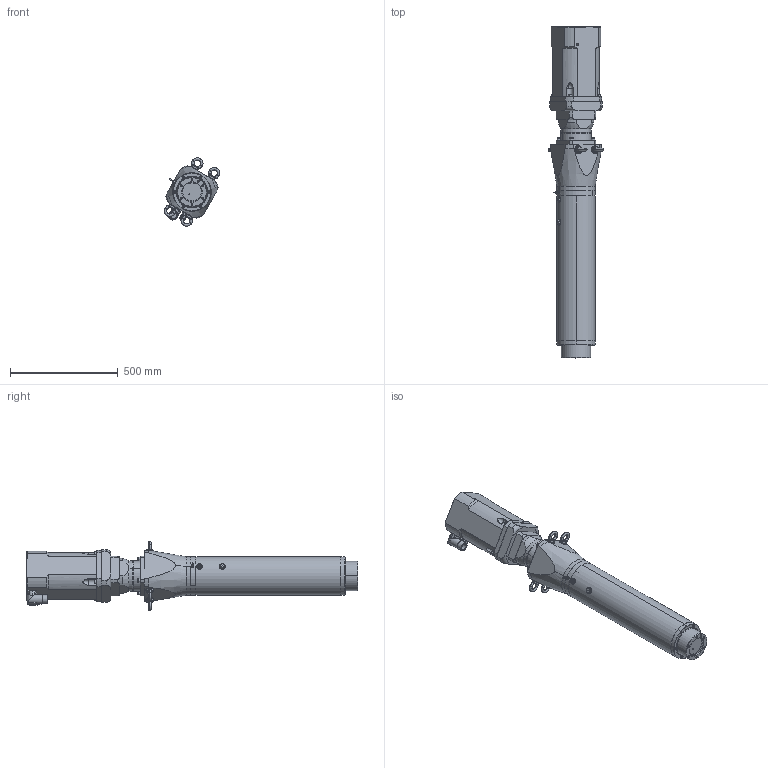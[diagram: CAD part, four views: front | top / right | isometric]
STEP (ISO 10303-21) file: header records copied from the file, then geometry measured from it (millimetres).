
FILE_DESCRIPTION (( 'STEP AP203' ), '1' );
FILE_NAME ('MLN5I1000-035-020NG0.STEP', '2014-11-18T07:12:59', ( 'Holtz' ), ( '' ), 'SwSTEP 2.0', 'SolidWorks 2013', '' );
FILE_SCHEMA (( 'CONFIG_CONTROL_DESIGN' ));
Length unit declared in the file: millimetre
Products named in the file (1): MLN5I1000-035-020NG0
Bounding box: 257.94 x 1537 x 317.97 mm (x, y, z)
Volume: 32719829 mm3; surface area: 2323207.3 mm2
Topology: 33 solids, 33 shells, 1183 faces, 2795 edges, 1658 vertices
Faces by surface type: cylinder 464, plane 361, cone 200, torus 82, bspline 74, sphere 2
Entity records: 39620 total; most frequent: CARTESIAN_POINT 12788, DIRECTION 5844, ORIENTED_EDGE 5298, EDGE_CURVE 2649, AXIS2_PLACEMENT_3D 2338, VERTEX_POINT 1658, EDGE_LOOP 1399, CIRCLE 1228
